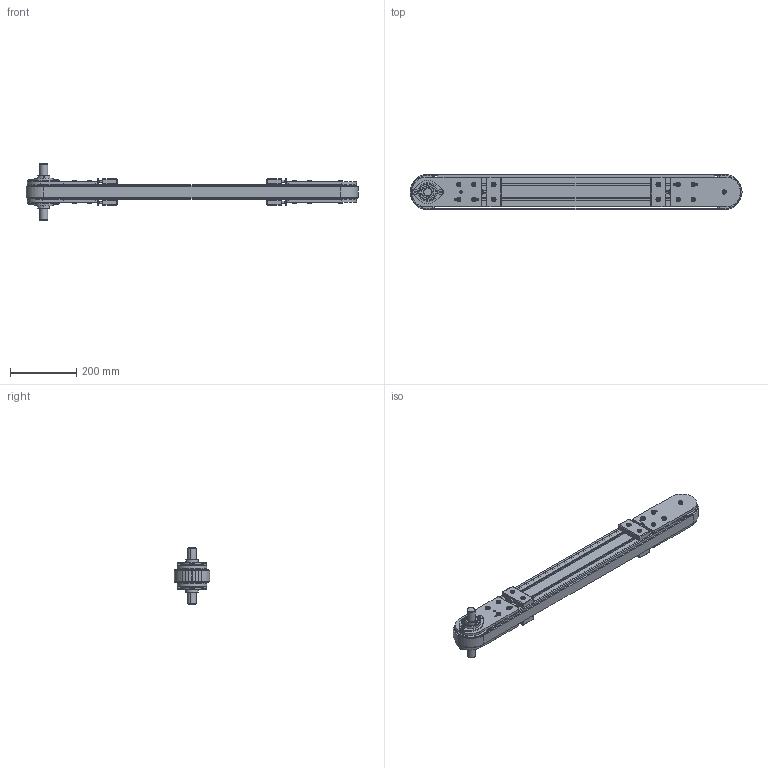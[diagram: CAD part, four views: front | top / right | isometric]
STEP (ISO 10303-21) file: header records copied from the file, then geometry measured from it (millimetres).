
FILE_DESCRIPTION (( 'STEP AP214' ), '1' );
FILE_NAME ('1.9025 HHK 45x90 32AT10_keskireisi_1000mm.STEP', '2026-02-25T08:46:19', ( '' ), ( '' ), 'SwSTEP 2.0', 'SolidWorks 2025', '' );
FILE_SCHEMA (( 'AUTOMOTIVE_DESIGN' ));
Length unit declared in the file: millimetre
Products named in the file (13): 1.8057 Kuljetinhihnalaakeri 90 Teräs; 1.3036 Yhdistämislevy 45x90 reiällä; Vetopää_Molemmat puolet; Yhdistämislevy kiristin; 1.0036 Alumiiniprofiili 45x90_Default<As Machined>; 1.8113 Taittopää 45x90 Teräs; 1.9025 HHK 45x90 32AT10_keskireisi_1000mm; 3.2015 hammashihnapyörä  32at10_32d25k8_0; Hammashihna 32AT10_1; 1.8115 Vetoakseli HHK 45x90 D25 L169 kiila 28; 1.2147 Aluslevy M8; 1.6039 Liukukisko hihnalle 32; 1.2158 Kuusiokantaruuvi M8x50
Assembly tree (17 placements, depth 3):
  1.9025 HHK 45x90 32AT10_keskireisi_1000mm
    1.0036 Alumiiniprofiili 45x90_Default<As Machined>
    1.6039 Liukukisko hihnalle 32
    1.8113 Taittopää 45x90 Teräs
    Vetopää_Molemmat puolet
      1.8057 Kuljetinhihnalaakeri 90 Teräs  x2
      3.2015 hammashihnapyörä  32at10_32d25k8_0
      1.8115 Vetoakseli HHK 45x90 D25 L169 kiila 28
    Yhdistämislevy kiristin  x4
      1.3036 Yhdistämislevy 45x90 reiällä
      1.2158 Kuusiokantaruuvi M8x50
      1.2147 Aluslevy M8
    Hammashihna 32AT10_1
Bounding box: 1000 x 107 x 169 mm (x, y, z)
Volume: 3136142.7 mm3; surface area: 1327867.2 mm2
Topology: 119 solids, 120 shells, 3754 faces, 9328 edges, 5838 vertices
Faces by surface type: plane 1791, cylinder 1160, cone 440, torus 208, bspline 91, sphere 64
Entity records: 110489 total; most frequent: CARTESIAN_POINT 22815, DIRECTION 13685, ORIENTED_EDGE 13230, EDGE_CURVE 6615, AXIS2_PLACEMENT_3D 5099, VERTEX_POINT 4228, VECTOR 3487, LINE 3487
